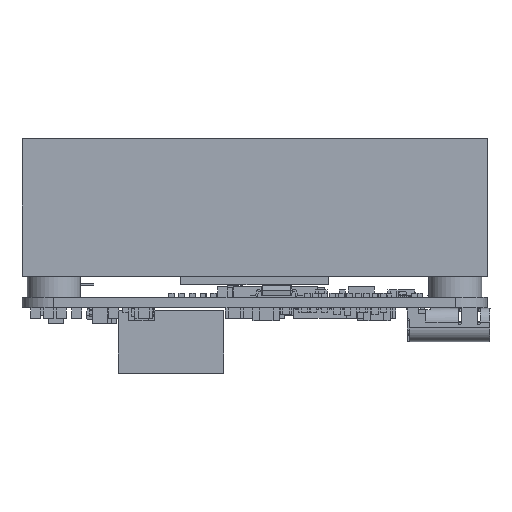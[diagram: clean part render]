
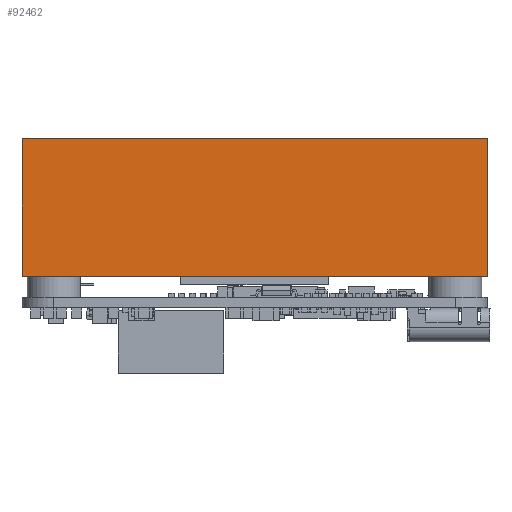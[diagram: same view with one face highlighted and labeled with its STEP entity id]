
A CAD part, left-side view. The second image highlights one B-rep face of the part: STEP entity #92462.
In plain terms, the highlighted planar face has unit normal (-1, 0, 0).
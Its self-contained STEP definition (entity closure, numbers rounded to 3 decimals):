
#86723 = VERTEX_POINT('',#86724);
#86724 = CARTESIAN_POINT('',(-15.,22.,15.));
#86730 = EDGE_CURVE('',#86723,#86731,#86733,.T.);
#86731 = VERTEX_POINT('',#86732);
#86732 = CARTESIAN_POINT('',(-15.,-22.,15.));
#86733 = LINE('',#86734,#86735);
#86734 = CARTESIAN_POINT('',(-15.,2.,15.));
#86735 = VECTOR('',#86736,1.);
#86736 = DIRECTION('',(0.,-1.,0.));
#91297 = EDGE_CURVE('',#86731,#91298,#91300,.T.);
#91298 = VERTEX_POINT('',#91299);
#91299 = CARTESIAN_POINT('',(-15.,-22.,2.));
#91300 = LINE('',#91301,#91302);
#91301 = CARTESIAN_POINT('',(-15.,-22.,15.));
#91302 = VECTOR('',#91303,1.);
#91303 = DIRECTION('',(0.,0.,-1.));
#92060 = EDGE_CURVE('',#91298,#92061,#92063,.T.);
#92061 = VERTEX_POINT('',#92062);
#92062 = CARTESIAN_POINT('',(-15.,22.,2.));
#92063 = LINE('',#92064,#92065);
#92064 = CARTESIAN_POINT('',(-15.,2.,2.));
#92065 = VECTOR('',#92066,1.);
#92066 = DIRECTION('',(0.,1.,0.));
#92220 = EDGE_CURVE('',#92061,#86723,#92221,.T.);
#92221 = LINE('',#92222,#92223);
#92222 = CARTESIAN_POINT('',(-15.,22.,15.));
#92223 = VECTOR('',#92224,1.);
#92224 = DIRECTION('',(0.,0.,1.));
#92462 = ADVANCED_FACE('',(#92463),#92469,.T.);
#92463 = FACE_BOUND('',#92464,.T.);
#92464 = EDGE_LOOP('',(#92465,#92466,#92467,#92468));
#92465 = ORIENTED_EDGE('',*,*,#92220,.F.);
#92466 = ORIENTED_EDGE('',*,*,#92060,.F.);
#92467 = ORIENTED_EDGE('',*,*,#91297,.F.);
#92468 = ORIENTED_EDGE('',*,*,#86730,.F.);
#92469 = PLANE('',#92470);
#92470 = AXIS2_PLACEMENT_3D('',#92471,#92472,#92473);
#92471 = CARTESIAN_POINT('',(-15.,2.,2.));
#92472 = DIRECTION('',(-1.,0.,0.));
#92473 = DIRECTION('',(0.,0.,1.));
